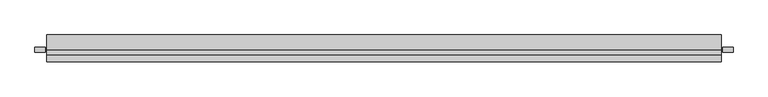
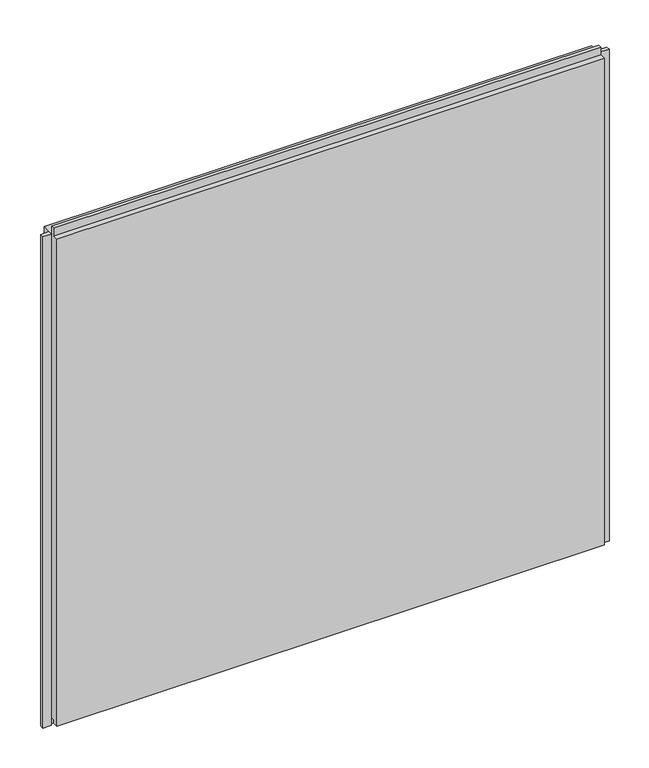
"""IFC4 building model written with IfcOpenShell, lengths in millimetres: plate geometry, Trimo_Qbiss Screen_Normal Panel-HORIZONTAL : HR - FB."""

from ifc_helpers import new_model, si_unit, frame, origin, place, context, project, spatial, polyline, outline, extrude, source, transform, mapped, element, save


def plate_482b14a9(model_context):
    return source(origin(), model_context, "Body", "SweptSolid", [
        extrude(outline(polyline([(-634.25, 76.5978162), (-634.25, 67.8978162), (-653.25, 67.8978162), (-653.25, 76.5978162), (-634.25, 76.5978162)])), frame((0.0, 0.0, -1.0), z_axis=(0.0, 0.0, 1.0), x_axis=(1.0, 0.0, 0.0)), (0.0, 0.0, 1.0), 1200.0),
        extrude(outline(polyline([(634.25, 67.8978162), (634.25, 76.5978162), (653.25, 76.5978162), (653.25, 67.8978162), (634.25, 67.8978162)])), frame((0.0, 0.0, -1.0), z_axis=(0.0, 0.0, 1.0), x_axis=(1.0, 0.0, 0.0)), (0.0, 0.0, 1.0), 1200.0),
        extrude(outline(polyline([(71.0, 1196.0), (100.0, 1196.0), (100.0, 0.0), (72.0, 0.0), (72.0, 15.5), (62.0, 15.5), (62.0, 7.0), (50.0, 7.0), (50.0, 1196.0), (63.0, 1196.0), (63.0, 1214.5), (71.0, 1214.5), (71.0, 1196.0)])), frame((-631.25, 0.0, 0.0), z_axis=(1.0, 0.0, 0.0), x_axis=(0.0, 1.0, 0.0)), (0.0, 0.0, 1.0), 1262.5),
    ])


if __name__ == "__main__":
    model = new_model("IFC4")
    model_context = context("Model", 3, world=origin())
    ifc_project = project(units=[si_unit("LENGTHUNIT", "METRE", prefix="MILLI")], contexts=[model_context])
    site = spatial("IfcSite", under=ifc_project)
    building = spatial("IfcBuilding", under=site)
    placement = place(None, origin())
    plate_shape = plate_482b14a9(model_context)
    element("IfcPlate", 1, ObjectType="Trimo_Qbiss Screen_Normal Panel-HORIZONTAL : HR - FB", at=placement, inside=building, context=model_context, shape_type="MappedRepresentation", body=[
        mapped(plate_shape, transform((0.0, 0.0, 0.0), x_axis=(1.0, 0.0, 0.0), y_axis=(0.0, 1.0, 0.0), z_axis=(0.0, 0.0, 1.0))),
    ])
    save(model, "model.ifc")
